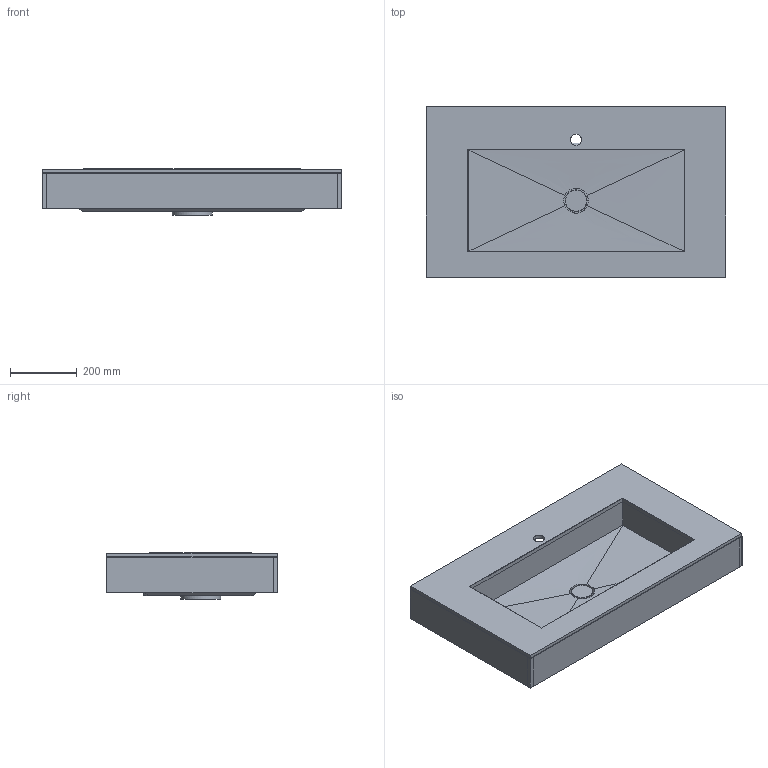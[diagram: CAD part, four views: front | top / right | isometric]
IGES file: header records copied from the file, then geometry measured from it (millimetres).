
Start section: Data from Parasolid IGES Translator 22.0.50, Copyright(c) 2006 Siemens P LM Software. All Rights Reserved.
Global section: file name: noorth-top-H 12 D 51,2 W 90_4370.igs; native system: By Siemens PLM Incorporated; preprocessor: XPlus GENERIC/IGES 22.0.50; author: Noname; organization: Noname; date: 20251109.133958; units: metre
Bounding box: 900 x 512 x 139.29 mm (x, y, z)
Volume: 15925661 mm3; surface area: 2219011.6 mm2
Topology: 12 solids, 12 shells, 115 faces, 270 edges, 183 vertices
Faces by surface type: plane 97, cylinder 9, cone 5, bspline 4
Full cylindrical faces by diameter (mm): 34 x2, 34.697 x1, 45 x2, 65 x2, 75 x1, 120 x1
